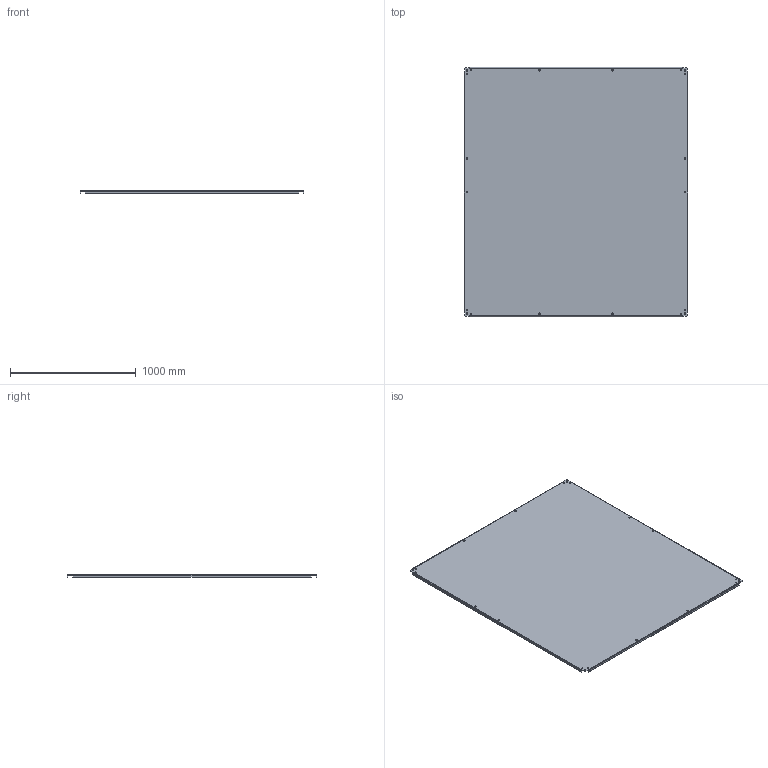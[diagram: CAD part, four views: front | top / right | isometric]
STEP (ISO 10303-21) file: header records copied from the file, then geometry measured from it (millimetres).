
FILE_DESCRIPTION (( 'STEP AP203' ), '1' );
FILE_NAME ('29990.step', '2014-01-14T10:57:49', ( '' ), ( '' ), 'SwSTEP 2.0', 'SolidWorks 2010', '' );
FILE_SCHEMA (( 'CONFIG_CONTROL_DESIGN' ));
Length unit declared in the file: inch
Products named in the file (2): 29990; 89052006_89052006
Assembly tree (1 placements, depth 2):
  29990
    89052006_89052006
Bounding box: 1778 x 1981.2 x 21.34 mm (x, y, z)
Volume: 11086217.2 mm3; surface area: 7299525.8 mm2
Topology: 1 solids, 1 shells, 302 faces, 840 edges, 552 vertices
Faces by surface type: bspline 132, plane 130, cylinder 40
Entity records: 14624 total; most frequent: CARTESIAN_POINT 7462, ORIENTED_EDGE 1680, DIRECTION 1012, EDGE_CURVE 840, VERTEX_POINT 552, VECTOR 488, LINE 488, EDGE_LOOP 346
